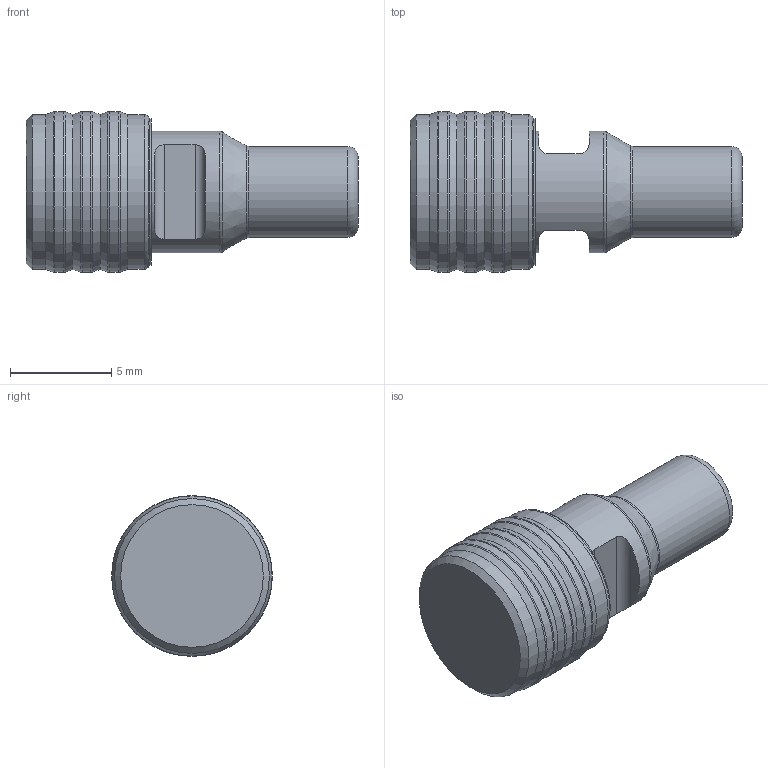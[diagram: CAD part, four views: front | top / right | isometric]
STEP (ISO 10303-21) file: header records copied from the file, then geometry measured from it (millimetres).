
FILE_DESCRIPTION(/* description */ ('LEE CHEK VALVE, 855 LC2 SERIES, PRESS IN'),/* implementation_level */ '2;1');
FILE_NAME(/* name */ '\\ABSOLUTE\SmWork\Vernon\CLCP80XXXXXS.stp',/* time_stamp */ '2021-03-23T14:13:48-04:00',/* author */ ('VernonJ'),/* organization */ (''),/* preprocessor_version */ 'ST-DEVELOPER v18',/* originating_system */ 'Autodesk Inventor 2020',/* authorisation */ '');
FILE_SCHEMA (('AUTOMOTIVE_DESIGN { 1 0 10303 214 3 1 1 }'));
Length unit declared in the file: millimetre
Products named in the file (1): CLCP80XXXXXS
Bounding box: 16.4 x 7.95 x 7.95 mm (x, y, z)
Volume: 487.7 mm3; surface area: 398.8 mm2
Topology: 1 solids, 1 shells, 40 faces, 131 edges, 95 vertices
Faces by surface type: cylinder 12, torus 10, plane 9, cone 9
Full cylindrical faces by diameter (mm): 4.5 x1, 6 x1, 7.25 x1, 7.65 x2, 7.95 x3
Entity records: 1629 total; most frequent: CARTESIAN_POINT 339, DIRECTION 298, ORIENTED_EDGE 262, AXIS2_PLACEMENT_3D 134, EDGE_CURVE 131, VERTEX_POINT 95, CIRCLE 93, EDGE_LOOP 42
